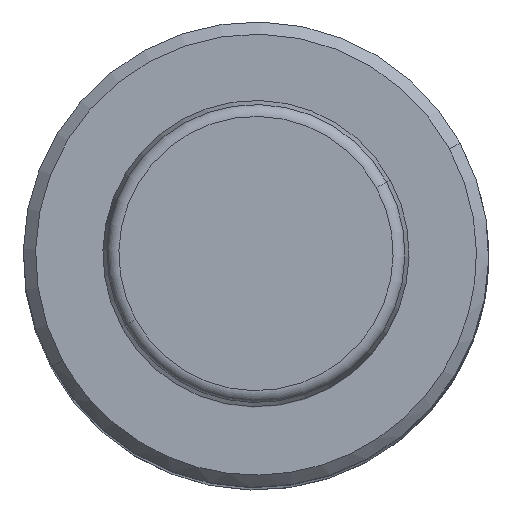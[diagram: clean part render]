
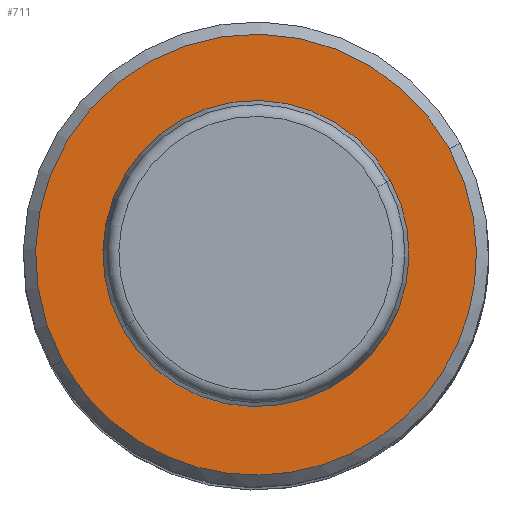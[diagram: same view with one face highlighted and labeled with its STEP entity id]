
A CAD part, top view. The second image highlights one B-rep face of the part: STEP entity #711.
In plain terms, the highlighted planar face has unit normal (0, 0, 1).
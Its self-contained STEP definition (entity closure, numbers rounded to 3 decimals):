
#641=CARTESIAN_POINT('Axis2P3D Location',(0.,0.,109.)) ;
#645=CARTESIAN_POINT('Vertex',(15.796,8.63,109.)) ;
#647=CARTESIAN_POINT('Vertex',(-15.796,-8.63,109.)) ;
#676=CARTESIAN_POINT('Axis2P3D Location',(18.,0.,109.)) ;
#682=CARTESIAN_POINT('Control Point',(15.796,8.63,109.)) ;
#683=CARTESIAN_POINT('Control Point',(16.594,7.17,109.)) ;
#684=CARTESIAN_POINT('Control Point',(17.222,5.619,109.)) ;
#685=CARTESIAN_POINT('Control Point',(17.668,4.002,109.)) ;
#686=CARTESIAN_POINT('Control Point',(18.179,0.693,109.)) ;
#687=CARTESIAN_POINT('Control Point',(17.922,-2.644,109.)) ;
#688=CARTESIAN_POINT('Control Point',(17.6,-4.291,109.)) ;
#689=CARTESIAN_POINT('Control Point',(16.583,-7.48,109.)) ;
#690=CARTESIAN_POINT('Control Point',(14.865,-10.354,109.)) ;
#691=CARTESIAN_POINT('Control Point',(13.844,-11.685,109.)) ;
#692=CARTESIAN_POINT('Control Point',(11.512,-14.086,109.)) ;
#693=CARTESIAN_POINT('Control Point',(8.694,-15.893,109.)) ;
#694=CARTESIAN_POINT('Control Point',(7.186,-16.63,109.)) ;
#695=CARTESIAN_POINT('Control Point',(4.028,-17.74,109.)) ;
#696=CARTESIAN_POINT('Control Point',(0.7,-18.102,109.)) ;
#697=CARTESIAN_POINT('Control Point',(-0.978,-18.089,109.)) ;
#698=CARTESIAN_POINT('Control Point',(-4.3,-17.677,109.)) ;
#699=CARTESIAN_POINT('Control Point',(-7.44,-16.518,109.)) ;
#700=CARTESIAN_POINT('Control Point',(-8.936,-15.758,109.)) ;
#701=CARTESIAN_POINT('Control Point',(-11.45,-14.092,109.)) ;
#702=CARTESIAN_POINT('Control Point',(-13.561,-11.949,109.)) ;
#703=CARTESIAN_POINT('Control Point',(-14.41,-10.91,109.)) ;
#704=CARTESIAN_POINT('Control Point',(-15.157,-9.8,109.)) ;
#705=CARTESIAN_POINT('Control Point',(-15.796,-8.63,109.)) ;
#642=DIRECTION('Axis2P3D Direction',(0.,0.,-1.)) ;
#677=DIRECTION('Axis2P3D Direction',(0.,0.,1.)) ;
#678=DIRECTION('Axis2P3D XDirection',(1.,0.,0.)) ;
#643=AXIS2_PLACEMENT_3D('Circle Axis2P3D',#641,#642,$) ;
#679=AXIS2_PLACEMENT_3D('Plane Axis2P3D',#676,#677,#678) ;
#708=ORIENTED_EDGE('',*,*,#649,.T.) ;
#709=ORIENTED_EDGE('',*,*,#706,.T.) ;
#711=ADVANCED_FACE('',(#710),#680,.T.) ;
#681=B_SPLINE_CURVE_WITH_KNOTS('',5,(#682,#683,#684,#685,#686,#687,#688,#689,#690,#691,#692,#693,#694,#695,#696,#697,#698,#699,#700,#701,#702,#703,#704,#705),.UNSPECIFIED.,.F.,.U.,(6,3,3,3,3,3,3,6),(0.,11.757,23.515,35.272,47.03,58.787,70.545,79.971),.UNSPECIFIED.) ;
#644=CIRCLE('generated circle',#643,18.) ;
#649=EDGE_CURVE('',#646,#648,#644,.F.) ;
#706=EDGE_CURVE('',#648,#646,#681,.F.) ;
#707=EDGE_LOOP('',(#708,#709)) ;
#710=FACE_OUTER_BOUND('',#707,.T.) ;
#680=PLANE('Plane',#679) ;
#646=VERTEX_POINT('',#645) ;
#648=VERTEX_POINT('',#647) ;
